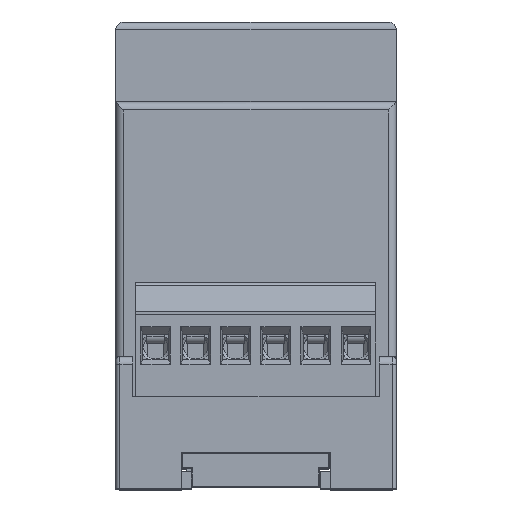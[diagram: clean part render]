
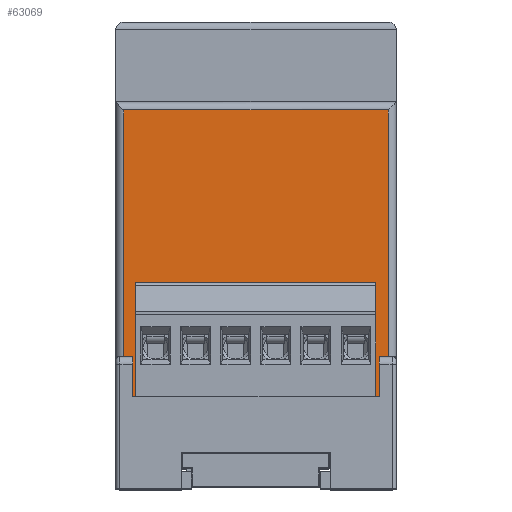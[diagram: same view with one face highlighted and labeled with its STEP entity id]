
A CAD part, top view. The second image highlights one B-rep face of the part: STEP entity #63069.
In plain terms, the highlighted planar face has unit normal (0, 0, 1).
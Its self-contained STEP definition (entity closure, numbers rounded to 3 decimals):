
#1111 = CARTESIAN_POINT ( 'NONE',  ( 1.5, -6.5, 0. ) ) ;
#1432 = VERTEX_POINT ( 'NONE', #46947 ) ;
#2819 = DIRECTION ( 'NONE',  ( 1., 0., 0. ) ) ;
#4971 = VERTEX_POINT ( 'NONE', #23233 ) ;
#6025 = ORIENTED_EDGE ( 'NONE', *, *, #87109, .T. ) ;
#6140 = EDGE_CURVE ( 'NONE', #32852, #7848, #109814, .T. ) ;
#7288 = VERTEX_POINT ( 'NONE', #87275 ) ;
#7848 = VERTEX_POINT ( 'NONE', #7925 ) ;
#7925 = CARTESIAN_POINT ( 'NONE',  ( 1.5, -9., 0. ) ) ;
#9353 = AXIS2_PLACEMENT_3D ( 'NONE', #10051, #19054, #81541 ) ;
#9916 = CARTESIAN_POINT ( 'NONE',  ( 0., 30.8, 0. ) ) ;
#10051 = CARTESIAN_POINT ( 'NONE',  ( 0., 31.8, 0. ) ) ;
#11381 = FACE_OUTER_BOUND ( 'NONE', #50299, .T. ) ;
#11966 = ORIENTED_EDGE ( 'NONE', *, *, #110010, .F. ) ;
#12141 = VECTOR ( 'NONE', #95301, 1000. ) ;
#13756 = VERTEX_POINT ( 'NONE', #86928 ) ;
#15205 = LINE ( 'NONE', #49083, #62773 ) ;
#19054 = DIRECTION ( 'NONE',  ( 0., 0., -1. ) ) ;
#22020 = DIRECTION ( 'NONE',  ( 0., -1., 0. ) ) ;
#22969 = EDGE_CURVE ( 'NONE', #4971, #87018, #83424, .T. ) ;
#23233 = CARTESIAN_POINT ( 'NONE',  ( 1., 30.8, 0. ) ) ;
#24911 = CARTESIAN_POINT ( 'NONE',  ( 32., -5., 0. ) ) ;
#26737 = EDGE_CURVE ( 'NONE', #42586, #13756, #15205, .T. ) ;
#30825 = DIRECTION ( 'NONE',  ( 0., 1., 0. ) ) ;
#32852 = VERTEX_POINT ( 'NONE', #88141 ) ;
#34572 = VECTOR ( 'NONE', #82189, 1000. ) ;
#35922 = VECTOR ( 'NONE', #2819, 1000. ) ;
#36853 = LINE ( 'NONE', #24911, #81534 ) ;
#40283 = CARTESIAN_POINT ( 'NONE',  ( 35., -9., 0. ) ) ;
#42586 = VERTEX_POINT ( 'NONE', #53071 ) ;
#43877 = ORIENTED_EDGE ( 'NONE', *, *, #54363, .T. ) ;
#44026 = EDGE_CURVE ( 'NONE', #32852, #70612, #79427, .T. ) ;
#45632 = ORIENTED_EDGE ( 'NONE', *, *, #61713, .T. ) ;
#45732 = LINE ( 'NONE', #110982, #66754 ) ;
#46863 = VECTOR ( 'NONE', #22020, 1000. ) ;
#46947 = CARTESIAN_POINT ( 'NONE',  ( 34., -9., 0. ) ) ;
#47755 = CARTESIAN_POINT ( 'NONE',  ( 1.5, -9., 0. ) ) ;
#48953 = DIRECTION ( 'NONE',  ( -1., 0., 0. ) ) ;
#49083 = CARTESIAN_POINT ( 'NONE',  ( 33.5, -5., 0. ) ) ;
#49618 = ORIENTED_EDGE ( 'NONE', *, *, #104888, .T. ) ;
#50002 = DIRECTION ( 'NONE',  ( 1., 0., 0. ) ) ;
#50299 = EDGE_LOOP ( 'NONE', ( #66161, #97927, #57867, #66809, #11966, #6025, #97917, #45632, #49618, #43877 ) ) ;
#51873 = DIRECTION ( 'NONE',  ( 0.707, -0.707, 0. ) ) ;
#53071 = CARTESIAN_POINT ( 'NONE',  ( 33.5, -6.5, 0. ) ) ;
#54363 = EDGE_CURVE ( 'NONE', #7288, #4971, #58351, .T. ) ;
#57867 = ORIENTED_EDGE ( 'NONE', *, *, #6140, .F. ) ;
#58351 = LINE ( 'NONE', #9916, #34572 ) ;
#58679 = VECTOR ( 'NONE', #48953, 1000. ) ;
#61713 = EDGE_CURVE ( 'NONE', #13756, #1432, #78813, .T. ) ;
#62773 = VECTOR ( 'NONE', #111293, 1000. ) ;
#63069 = ADVANCED_FACE ( 'NONE', ( #11381 ), #63645, .F. ) ;
#63645 = PLANE ( 'NONE',  #9353 ) ;
#66161 = ORIENTED_EDGE ( 'NONE', *, *, #22969, .T. ) ;
#66754 = VECTOR ( 'NONE', #30825, 1000. ) ;
#66809 = ORIENTED_EDGE ( 'NONE', *, *, #44026, .T. ) ;
#68112 = VERTEX_POINT ( 'NONE', #97160 ) ;
#70612 = VERTEX_POINT ( 'NONE', #107416 ) ;
#75555 = CARTESIAN_POINT ( 'NONE',  ( 1.5, -5., 0. ) ) ;
#78813 = LINE ( 'NONE', #40283, #102651 ) ;
#79427 = LINE ( 'NONE', #1111, #100437 ) ;
#80604 = LINE ( 'NONE', #47755, #35922 ) ;
#81534 = VECTOR ( 'NONE', #51873, 1000. ) ;
#81541 = DIRECTION ( 'NONE',  ( -1., 0., 0. ) ) ;
#82189 = DIRECTION ( 'NONE',  ( -1., 0., 0. ) ) ;
#83424 = LINE ( 'NONE', #86303, #12141 ) ;
#86303 = CARTESIAN_POINT ( 'NONE',  ( 1., 31.8, 0. ) ) ;
#86928 = CARTESIAN_POINT ( 'NONE',  ( 33.5, -9., 0. ) ) ;
#87018 = VERTEX_POINT ( 'NONE', #102737 ) ;
#87109 = EDGE_CURVE ( 'NONE', #68112, #42586, #36853, .T. ) ;
#87275 = CARTESIAN_POINT ( 'NONE',  ( 34., 30.8, 0. ) ) ;
#88141 = CARTESIAN_POINT ( 'NONE',  ( 1.5, -6.5, 0. ) ) ;
#94486 = EDGE_CURVE ( 'NONE', #87018, #7848, #80604, .T. ) ;
#95301 = DIRECTION ( 'NONE',  ( 0., -1., 0. ) ) ;
#97160 = CARTESIAN_POINT ( 'NONE',  ( 32., -5., 0. ) ) ;
#97917 = ORIENTED_EDGE ( 'NONE', *, *, #26737, .T. ) ;
#97927 = ORIENTED_EDGE ( 'NONE', *, *, #94486, .T. ) ;
#99203 = DIRECTION ( 'NONE',  ( 0.707, 0.707, 0. ) ) ;
#100437 = VECTOR ( 'NONE', #99203, 1000. ) ;
#102651 = VECTOR ( 'NONE', #50002, 1000. ) ;
#102737 = CARTESIAN_POINT ( 'NONE',  ( 1., -9., 0. ) ) ;
#104888 = EDGE_CURVE ( 'NONE', #1432, #7288, #45732, .T. ) ;
#106245 = LINE ( 'NONE', #111168, #58679 ) ;
#107416 = CARTESIAN_POINT ( 'NONE',  ( 3., -5., 0. ) ) ;
#109814 = LINE ( 'NONE', #75555, #46863 ) ;
#110010 = EDGE_CURVE ( 'NONE', #68112, #70612, #106245, .T. ) ;
#110982 = CARTESIAN_POINT ( 'NONE',  ( 34., 31.8, 0. ) ) ;
#111168 = CARTESIAN_POINT ( 'NONE',  ( 1.5, -5., 0. ) ) ;
#111293 = DIRECTION ( 'NONE',  ( 0., -1., 0. ) ) ;
